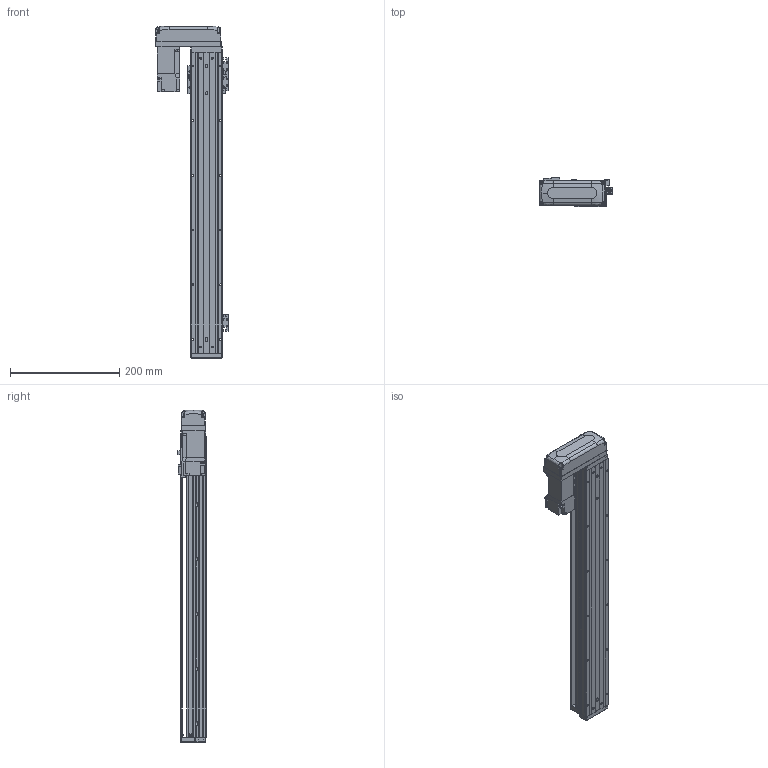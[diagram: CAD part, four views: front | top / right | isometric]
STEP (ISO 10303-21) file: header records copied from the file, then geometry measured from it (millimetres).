
FILE_DESCRIPTION (( 'STEP AP203' ), '1' );
FILE_NAME ('KTHA50-450-BR-M10-C4L.step', '2022-03-19T07:15:37', ( '微软用户' ), ( '微软中国' ), 'SwSTEP 2.0', 'SolidWorks 2020', '' );
FILE_SCHEMA (( 'CONFIG_CONTROL_DESIGN' ));
Length unit declared in the file: millimetre
Products named in the file (18): GBT 70.1-M4×12; GBT 70.1-M3×15; KTHA50-005; CTHA60-016; KTHA50-450-BR-M10-C4L; GB¨uT 70.2-M3¡Á6_M3¡Á6; CTHA60-021; EE_SX911P_R; GBT 70.3-M3℅6; GBT77-2000 M3×3; HG-KR13（三菱）; KTHA50-001_550; GBT 70.1-M3℅6; CTHA50-015-2_CTHA60-015-2; KTHA50-002; CTHA60-017; CTHA60-033; KTHA50-004
Assembly tree (53 placements, depth 2):
  KTHA50-450-BR-M10-C4L
    KTHA50-001_550
    KTHA50-002
    KTHA50-004
    KTHA50-005
    GB¨uT 70.2-M3¡Á6_M3¡Á6  x6
    EE_SX911P_R  x3
    GBT77-2000 M3×3  x6
    GBT 70.1-M3℅6  x6
    CTHA60-017  x3
    GBT 70.1-M4×12  x10
    CTHA60-016  x2
    CTHA60-021  x2
    GBT 70.3-M3℅6  x4
    HG-KR13（三菱）
    CTHA50-015-2_CTHA60-015-2
    CTHA60-033
    GBT 70.1-M3×15  x4
Bounding box: 133.82 x 52.3 x 607 mm (x, y, z)
Volume: 1264752.9 mm3; surface area: 310136.5 mm2
Topology: 56 solids, 56 shells, 2263 faces, 5351 edges, 3280 vertices
Faces by surface type: plane 1264, cylinder 550, cone 307, torus 100, bspline 26, sphere 16
Entity records: 38235 total; most frequent: CARTESIAN_POINT 7234, DIRECTION 5965, ORIENTED_EDGE 5714, EDGE_CURVE 2857, AXIS2_PLACEMENT_3D 2027, LINE 1911, VECTOR 1911, VERTEX_POINT 1794
